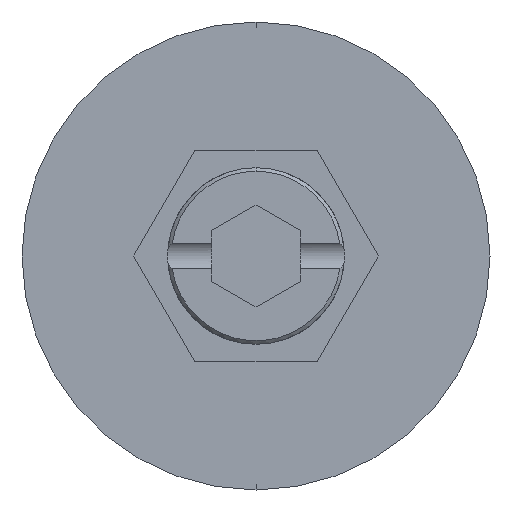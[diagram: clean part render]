
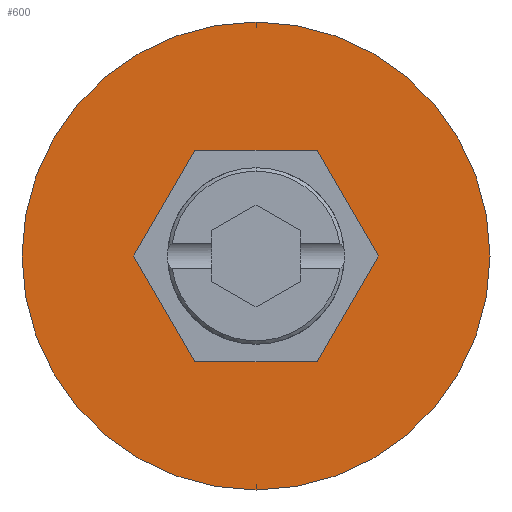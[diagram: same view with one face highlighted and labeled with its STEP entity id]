
A CAD part, front view. The second image highlights one B-rep face of the part: STEP entity #600.
In plain terms, the highlighted planar face has unit normal (0, -1, 0).
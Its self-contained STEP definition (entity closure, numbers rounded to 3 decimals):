
#78 = EDGE_LOOP ( 'NONE', ( #3004, #2069 ) ) ;
#123 = ORIENTED_EDGE ( 'NONE', *, *, #1053, .F. ) ;
#134 = VERTEX_POINT ( 'NONE', #644 ) ;
#148 = FACE_OUTER_BOUND ( 'NONE', #78, .T. ) ;
#152 = DIRECTION ( 'NONE',  ( -1., 0., 0. ) ) ;
#172 = CARTESIAN_POINT ( 'NONE',  ( 0., 0., -13.25 ) ) ;
#193 = VECTOR ( 'NONE', #3034, 1000. ) ;
#268 = EDGE_CURVE ( 'NONE', #134, #1500, #2464, .T. ) ;
#461 = DIRECTION ( 'NONE',  ( 0.5, 0., 0.866 ) ) ;
#486 = CARTESIAN_POINT ( 'NONE',  ( 0., 0., 0. ) ) ;
#501 = LINE ( 'NONE', #1199, #1742 ) ;
#512 = CARTESIAN_POINT ( 'NONE',  ( 0., 0., 0. ) ) ;
#547 = CARTESIAN_POINT ( 'NONE',  ( -6.928, 0., 0. ) ) ;
#600 = ADVANCED_FACE ( 'NONE', ( #2070, #148 ), #1496, .T. ) ;
#644 = CARTESIAN_POINT ( 'NONE',  ( 3.464, 0., 6. ) ) ;
#712 = CARTESIAN_POINT ( 'NONE',  ( 3.464, 0., -6. ) ) ;
#725 = VECTOR ( 'NONE', #2676, 1000. ) ;
#745 = VERTEX_POINT ( 'NONE', #547 ) ;
#764 = DIRECTION ( 'NONE',  ( 0., 0., -1. ) ) ;
#817 = CARTESIAN_POINT ( 'NONE',  ( -6.928, 0., 0. ) ) ;
#827 = EDGE_CURVE ( 'NONE', #745, #893, #1532, .T. ) ;
#860 = VERTEX_POINT ( 'NONE', #3118 ) ;
#893 = VERTEX_POINT ( 'NONE', #2835 ) ;
#970 = LINE ( 'NONE', #2435, #725 ) ;
#1011 = CARTESIAN_POINT ( 'NONE',  ( 3.464, 0., 6. ) ) ;
#1053 = EDGE_CURVE ( 'NONE', #893, #1607, #2489, .T. ) ;
#1124 = LINE ( 'NONE', #1447, #1709 ) ;
#1131 = VERTEX_POINT ( 'NONE', #172 ) ;
#1199 = CARTESIAN_POINT ( 'NONE',  ( 6.928, 0., 0. ) ) ;
#1206 = CIRCLE ( 'NONE', #1494, 13.25 ) ;
#1220 = DIRECTION ( 'NONE',  ( 0., 0., -1. ) ) ;
#1273 = EDGE_CURVE ( 'NONE', #1131, #860, #1206, .T. ) ;
#1276 = CIRCLE ( 'NONE', #1354, 13.25 ) ;
#1327 = EDGE_CURVE ( 'NONE', #1607, #1956, #1124, .T. ) ;
#1354 = AXIS2_PLACEMENT_3D ( 'NONE', #512, #2260, #764 ) ;
#1447 = CARTESIAN_POINT ( 'NONE',  ( 3.464, 0., -6. ) ) ;
#1479 = DIRECTION ( 'NONE',  ( 0., -1., 0. ) ) ;
#1494 = AXIS2_PLACEMENT_3D ( 'NONE', #486, #1479, #1220 ) ;
#1496 = PLANE ( 'NONE',  #1691 ) ;
#1500 = VERTEX_POINT ( 'NONE', #1907 ) ;
#1532 = LINE ( 'NONE', #817, #193 ) ;
#1600 = EDGE_CURVE ( 'NONE', #1956, #134, #501, .T. ) ;
#1607 = VERTEX_POINT ( 'NONE', #712 ) ;
#1691 = AXIS2_PLACEMENT_3D ( 'NONE', #1792, #1735, #1810 ) ;
#1709 = VECTOR ( 'NONE', #461, 1000. ) ;
#1735 = DIRECTION ( 'NONE',  ( 0., -1., 0. ) ) ;
#1742 = VECTOR ( 'NONE', #2916, 1000. ) ;
#1792 = CARTESIAN_POINT ( 'NONE',  ( 0., 0., 0. ) ) ;
#1810 = DIRECTION ( 'NONE',  ( 0., 0., -1. ) ) ;
#1907 = CARTESIAN_POINT ( 'NONE',  ( -3.464, 0., 6. ) ) ;
#1956 = VERTEX_POINT ( 'NONE', #2768 ) ;
#1973 = DIRECTION ( 'NONE',  ( 1., 0., 0. ) ) ;
#2038 = EDGE_LOOP ( 'NONE', ( #123, #2857, #2202, #2781, #2934, #2337 ) ) ;
#2069 = ORIENTED_EDGE ( 'NONE', *, *, #2818, .T. ) ;
#2070 = FACE_BOUND ( 'NONE', #2038, .T. ) ;
#2202 = ORIENTED_EDGE ( 'NONE', *, *, #2328, .F. ) ;
#2260 = DIRECTION ( 'NONE',  ( 0., -1., 0. ) ) ;
#2273 = CARTESIAN_POINT ( 'NONE',  ( -3.464, 0., -6. ) ) ;
#2328 = EDGE_CURVE ( 'NONE', #1500, #745, #970, .T. ) ;
#2337 = ORIENTED_EDGE ( 'NONE', *, *, #1327, .F. ) ;
#2435 = CARTESIAN_POINT ( 'NONE',  ( -3.464, 0., 6. ) ) ;
#2464 = LINE ( 'NONE', #1011, #3051 ) ;
#2489 = LINE ( 'NONE', #2273, #3070 ) ;
#2676 = DIRECTION ( 'NONE',  ( -0.5, 0., -0.866 ) ) ;
#2768 = CARTESIAN_POINT ( 'NONE',  ( 6.928, 0., 0. ) ) ;
#2781 = ORIENTED_EDGE ( 'NONE', *, *, #268, .F. ) ;
#2818 = EDGE_CURVE ( 'NONE', #860, #1131, #1276, .T. ) ;
#2835 = CARTESIAN_POINT ( 'NONE',  ( -3.464, 0., -6. ) ) ;
#2857 = ORIENTED_EDGE ( 'NONE', *, *, #827, .F. ) ;
#2916 = DIRECTION ( 'NONE',  ( -0.5, 0., 0.866 ) ) ;
#2934 = ORIENTED_EDGE ( 'NONE', *, *, #1600, .F. ) ;
#3004 = ORIENTED_EDGE ( 'NONE', *, *, #1273, .T. ) ;
#3034 = DIRECTION ( 'NONE',  ( 0.5, 0., -0.866 ) ) ;
#3051 = VECTOR ( 'NONE', #152, 1000. ) ;
#3070 = VECTOR ( 'NONE', #1973, 1000. ) ;
#3118 = CARTESIAN_POINT ( 'NONE',  ( 0., 0., 13.25 ) ) ;
